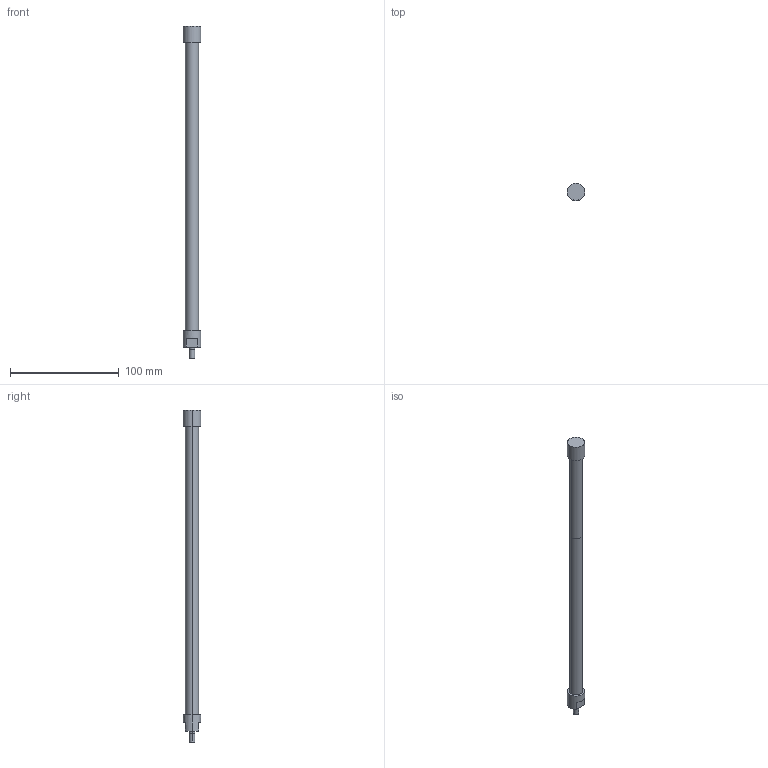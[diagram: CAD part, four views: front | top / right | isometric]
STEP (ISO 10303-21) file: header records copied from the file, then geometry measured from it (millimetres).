
FILE_DESCRIPTION(('STEP AP214'),'1');
FILE_NAME('ETT-R025M305.stp','2015-02-04T08:08:19',(' '),(' '),'Spatial InterOp 3D',' ',' ');
FILE_SCHEMA(('automotive_design'));
Length unit declared in the file: metre
Products named in the file (2): 1; 2
Bounding box: 16 x 16 x 306 mm (x, y, z)
Volume: 19354.2 mm3; surface area: 18637.7 mm2
Topology: 1 solids, 5 shells, 24 faces, 56 edges, 42 vertices
Faces by surface type: cylinder 12, plane 12
Entity records: 952 total; most frequent: DIRECTION 142, CARTESIAN_POINT 124, ORIENTED_EDGE 100, AXIS2_PLACEMENT_3D 60, EDGE_CURVE 56, VERTEX_POINT 42, CIRCLE 34, EDGE_LOOP 28
